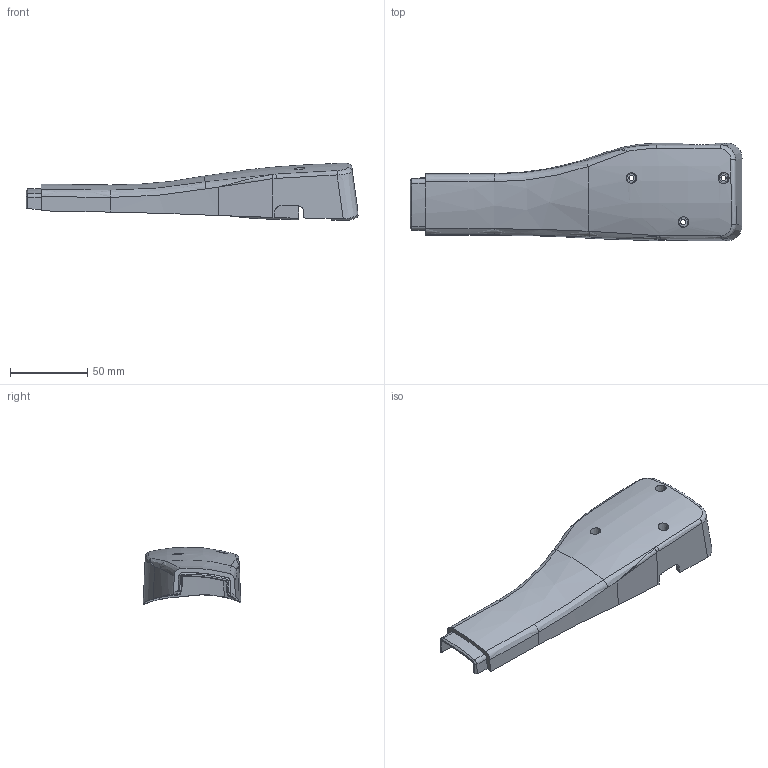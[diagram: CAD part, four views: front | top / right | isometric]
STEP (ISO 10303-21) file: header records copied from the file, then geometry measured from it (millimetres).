
FILE_DESCRIPTION (( 'STEP AP214' ), '1' );
FILE_NAME ('P-00106 - Servo Cover - v2.2.3_Left Motor Cover.STEP', '2026-06-12T21:52:47', ( '' ), ( '' ), 'SwSTEP 2.0', 'SolidWorks 2023', '' );
FILE_SCHEMA (( 'AUTOMOTIVE_DESIGN' ));
Length unit declared in the file: inch
Products named in the file (1): P-00106 - Servo Cover - v2.2.3_Left Motor Cover
Bounding box: 214.3 x 63 x 36.97 mm (x, y, z)
Volume: 56121.3 mm3; surface area: 42993 mm2
Topology: 1 solids, 1 shells, 280 faces, 737 edges, 457 vertices
Faces by surface type: bspline 145, plane 67, cylinder 32, cone 28, sphere 5, torus 3
Entity records: 17031 total; most frequent: CARTESIAN_POINT 11543, ORIENTED_EDGE 1460, EDGE_CURVE 730, DIRECTION 676, VERTEX_POINT 457, B_SPLINE_CURVE_WITH_KNOTS 394, EDGE_LOOP 291, FACE_OUTER_BOUND 280
